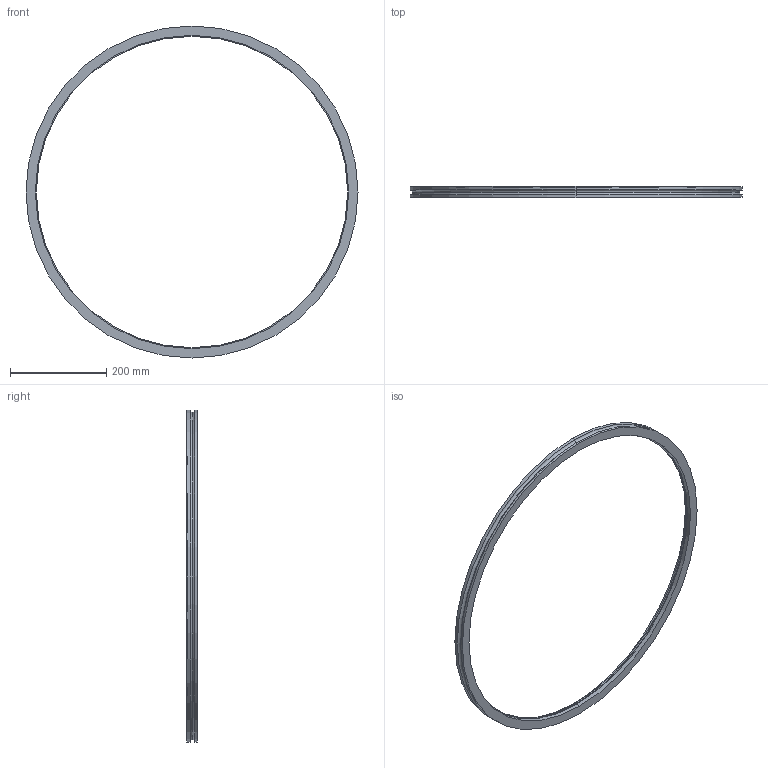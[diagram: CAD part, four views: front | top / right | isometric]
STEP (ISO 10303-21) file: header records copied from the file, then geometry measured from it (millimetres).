
FILE_DESCRIPTION (( 'STEP AP214' ), '1' );
FILE_NAME ('W4KL630.STEP', '2019-09-27T08:34:35', ( '' ), ( '' ), 'SwSTEP 2.0', 'SolidWorks 2018', '' );
FILE_SCHEMA (( 'AUTOMOTIVE_DESIGN' ));
Length unit declared in the file: millimetre
Products named in the file (1): W4KL630
Bounding box: 690 x 22 x 690 mm (x, y, z)
Volume: 676585.8 mm3; surface area: 195479 mm2
Topology: 1 solids, 1 shells, 21 faces, 42 edges, 26 vertices
Faces by surface type: cylinder 12, plane 5, torus 4
Entity records: 596 total; most frequent: DIRECTION 116, CARTESIAN_POINT 90, ORIENTED_EDGE 84, AXIS2_PLACEMENT_3D 52, EDGE_CURVE 42, CIRCLE 30, EDGE_LOOP 26, VERTEX_POINT 26
